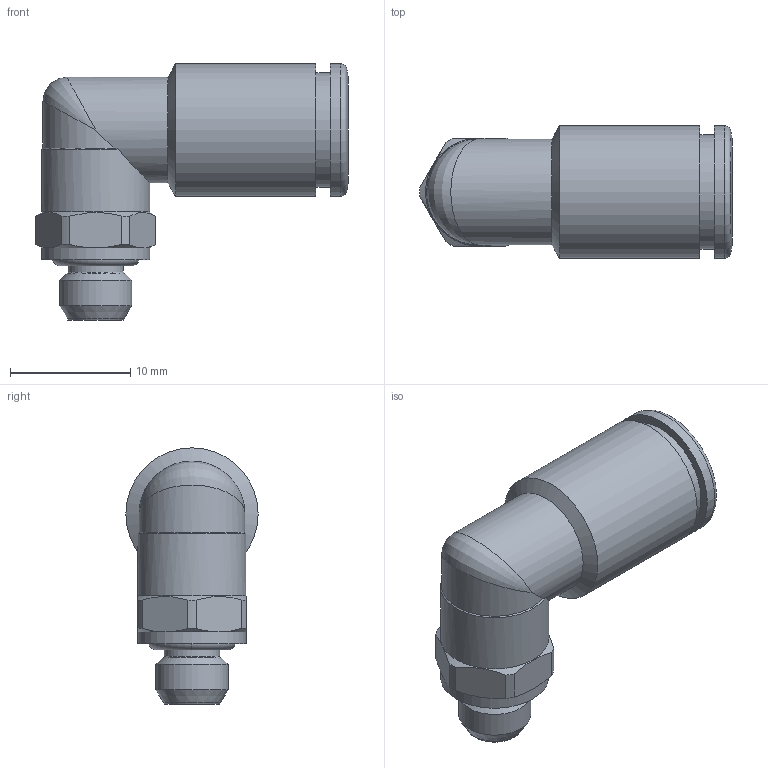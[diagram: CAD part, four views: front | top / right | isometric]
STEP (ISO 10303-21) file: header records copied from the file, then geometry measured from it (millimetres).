
FILE_DESCRIPTION(('Bauteilbeschreibung','HiCAD-Model','HiCAD-STEP-TRANSLATION','Bauteilbeschreibung'),'2;1');
FILE_NAME('B:/ABGLEICH/ZEICHNUNGEN/STEP FÜR INTERNET/STEP/IPSO 022/202225_IPSO_022_6_M6.STP','2012-02-06T13:49:18+00:00',('Konstrukteur'),('Konstrukteur Firma GmbH'),' HiCAD neXt 2008, Step 3.1.1401.2J ','HiCAD neXt 2008','confidential');
FILE_SCHEMA(('AUTOMOTIVE_DESIGN { 1 2 10303 214 0 1 1 1 }'));
Length unit declared in the file: millimetre
Products named in the file (7): A02225_IPSO_022_6_M6; OR 4X1_5; DR6_1_NEU; A14600_N2; A146000N2; DIN 13_M6; R202215_N2
Assembly tree (6 placements, depth 3):
  A02225_IPSO_022_6_M6
    OR 4X1_5
    DR6_1_NEU
    A14600_N2
    A146000N2
      DIN 13_M6
    R202215_N2
Bounding box: 26 x 11 x 21.3 mm (x, y, z)
Volume: 1688.6 mm3; surface area: 2766 mm2
Topology: 5 solids, 5 shells, 83 faces, 186 edges, 112 vertices
Faces by surface type: cylinder 29, cone 27, plane 19, torus 7, bspline 1
Full cylindrical faces by diameter (mm): 3 x1, 4 x1, 4.6 x1, 4.773 x2, 6 x1, 6.1 x1, 6.2 x1, 6.8 x2, 7.85 x1, 7.9 x1, 8.3 x1, 8.8 x1, 9 x3, 9.5 x1, 9.6 x1, 11 x2
Entity records: 3778 total; most frequent: CARTESIAN_POINT 1467, DIRECTION 372, ORIENTED_EDGE 252, AXIS2_PLACEMENT_3D 179, EDGE_LOOP 139, EDGE_CURVE 126, COLOUR_RGB 114, PRESENTATION_STYLE_ASSIGNMENT 114
